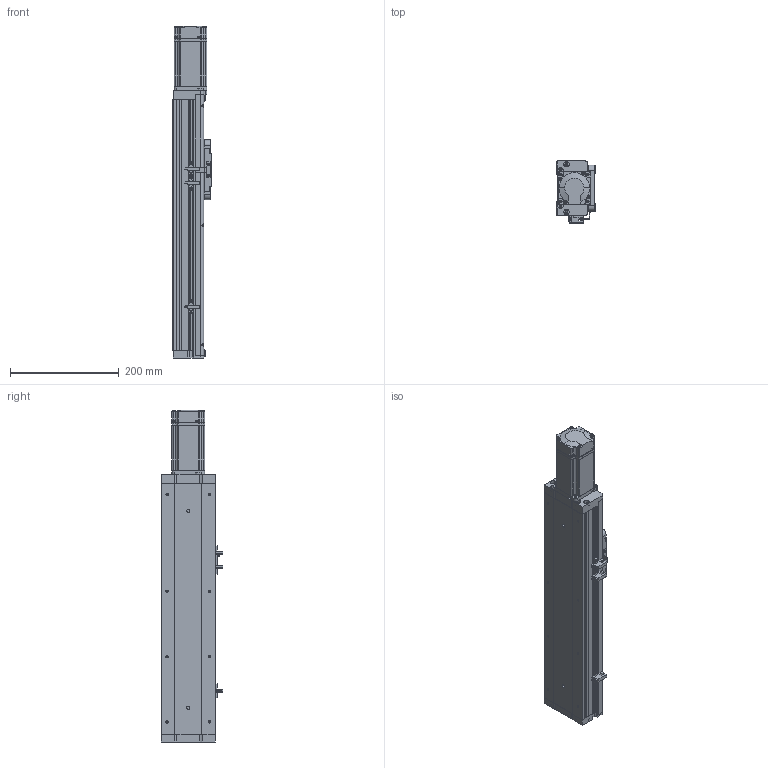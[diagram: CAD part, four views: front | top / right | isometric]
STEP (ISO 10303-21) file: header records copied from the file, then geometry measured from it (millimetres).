
FILE_DESCRIPTION (( 'STEP AP214' ), '1' );
FILE_NAME ('KSD100S-S250-MN-CR.STEP', '2019-09-02T08:47:56', ( '微软用户' ), ( '微软中国' ), 'SwSTEP 2.0', 'SolidWorks 2014', '' );
FILE_SCHEMA (( 'AUTOMOTIVE_DESIGN' ));
Length unit declared in the file: millimetre
Products named in the file (12): MHMD042G1CA_2_03; U倰嫖萇EEㄜSX672; 感应片100宽全封闭; 100宽马达安装板全封闭不带电机座; 100宽端板全封闭; 100宽滚珠螺姆安装板1防护罩; 100宽滚珠螺姆安装板1; 100宽盖板压板不带电机座; 100宽盖板250行程不带电机座; 100宽侧板250行程不带电机座; 100宽底板全封闭250行程不带电机座; KSD100S-S250-MN-CR
Assembly tree (15 placements, depth 2):
  KSD100S-S250-MN-CR
    100宽底板全封闭250行程不带电机座
    100宽侧板250行程不带电机座  x2
    100宽盖板250行程不带电机座
    100宽盖板压板不带电机座  x2
    100宽滚珠螺姆安装板1
    100宽滚珠螺姆安装板1防护罩
    100宽端板全封闭
    100宽马达安装板全封闭不带电机座
    感应片100宽全封闭
    U倰嫖萇EEㄜSX672  x3
    MHMD042G1CA_2_03
Bounding box: 70 x 113.7 x 610.5 mm (x, y, z)
Volume: 1056050.9 mm3; surface area: 481968.1 mm2
Topology: 14 solids, 15 shells, 1418 faces, 3964 edges, 2554 vertices
Faces by surface type: plane 658, cylinder 573, cone 169, bspline 18
Entity records: 48068 total; most frequent: CARTESIAN_POINT 7389, DIRECTION 6585, ORIENTED_EDGE 6164, EDGE_CURVE 3154, AXIS2_PLACEMENT_3D 2306, VERTEX_POINT 2092, LINE 1973, VECTOR 1973
